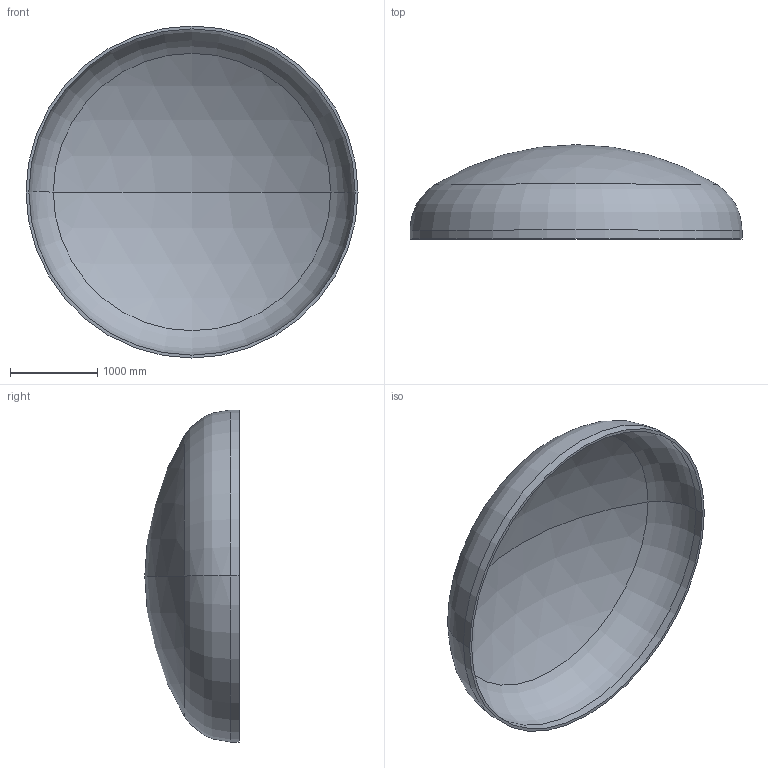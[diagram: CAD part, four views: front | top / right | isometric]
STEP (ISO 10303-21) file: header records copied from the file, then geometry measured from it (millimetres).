
FILE_DESCRIPTION (( 'STEP AP203' ), '1' );
FILE_NAME ('DIN 28013 Korbbogenform_-_Boden DIN 28013 - 3800 x 100 - I - s=33.step', '2016-07-01T21:17:42', ( '' ), ( '' ), 'SwSTEP 2.0', 'SolidWorks 2013', '' );
FILE_SCHEMA (( 'CONFIG_CONTROL_DESIGN' ));
Length unit declared in the file: millimetre
Products named in the file (1): DIN 28013 Korbbogenform_-_Boden DIN 28013 - 3800 x 100 - I - s=33
Bounding box: 3800 x 1079.32 x 3800 mm (x, y, z)
Volume: 551443945.3 mm3; surface area: 33813647.9 mm2
Topology: 1 solids, 1 shells, 13 faces, 24 edges, 14 vertices
Faces by surface type: torus 4, cylinder 4, sphere 4, plane 1
Entity records: 407 total; most frequent: DIRECTION 72, CARTESIAN_POINT 52, ORIENTED_EDGE 48, AXIS2_PLACEMENT_3D 34, EDGE_CURVE 24, CIRCLE 20, EDGE_LOOP 14, VERTEX_POINT 14
